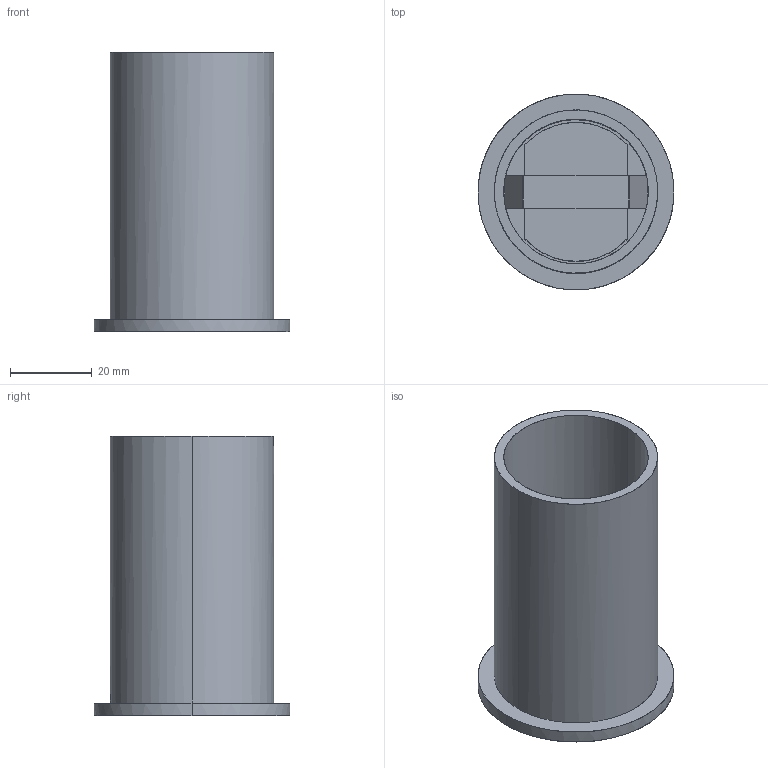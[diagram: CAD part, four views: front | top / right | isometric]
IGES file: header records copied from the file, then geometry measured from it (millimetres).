
Start section: SolidWorks IGES file using NURBS representation for surfaces
Global section: file name: Z:\Modele 3D_WWW\_KOLEKCJE_WWW\OIA-LED-9103-9102\OIA-LED-9103-9102.IGS; native system: SolidWorks 2021; preprocessor: SolidWorks 2021; author: gabriela.tworek; date: 210909.103822; units: millimetre
Bounding box: 48 x 48 x 68.49 mm (x, y, z)
Surface area: 24613.8 mm2 (no closed solid volume)
Topology: 0 solids, 0 shells, 45 faces, 930 edges, 930 vertices
Faces by surface type: bspline 45
